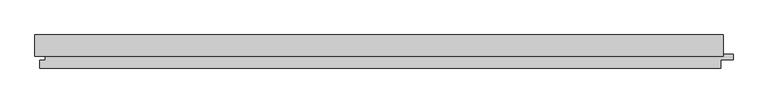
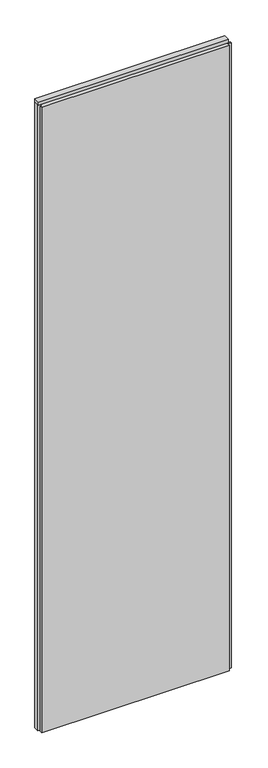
"""IFC4 building model written with IfcOpenShell, lengths in millimetres: plate geometry, Trimo_Qbiss Screen_Normal Panel-VERTICAL : HR - FB-F."""

from ifc_helpers import new_model, si_unit, frame, origin, place, context, project, spatial, polyline, outline, extrude, source, transform, mapped, element, save


def plate_f19d07dd(model_context):
    return source(origin(), model_context, "Body", "SweptSolid", [
        extrude(outline(polyline([(-513.0, 93.9), (-513.0, 126.0), (513.0, 126.0), (513.0, 93.9), (-513.0, 93.9)])), frame((0.0, 0.0, 3590.5), z_axis=(0.0, 0.0, 1.0), x_axis=(1.0, 0.0, 0.0)), (0.0, 0.0, 1.0), 19.0),
        extrude(outline(polyline([(509.0, 97.0), (527.5, 97.0), (527.5, 89.0), (509.0, 89.0), (509.0, 76.0), (-506.0, 76.0), (-506.0, 88.0), (-497.5, 88.0), (-497.5, 98.0), (-513.0, 98.0), (-513.0, 126.0), (509.0, 126.0), (509.0, 97.0)])), frame((0.0, 0.0, 12.5), z_axis=(0.0, 0.0, 1.0), x_axis=(1.0, 0.0, 0.0)), (0.0, 0.0, 1.0), 3575.0),
    ])


if __name__ == "__main__":
    model = new_model("IFC4")
    model_context = context("Model", 3, world=origin())
    ifc_project = project(units=[si_unit("LENGTHUNIT", "METRE", prefix="MILLI")], contexts=[model_context])
    site = spatial("IfcSite", under=ifc_project)
    building = spatial("IfcBuilding", under=site)
    placement = place(None, origin())
    plate_shape = plate_f19d07dd(model_context)
    element("IfcPlate", 1, ObjectType="Trimo_Qbiss Screen_Normal Panel-VERTICAL : HR - FB-F", at=placement, inside=building, context=model_context, shape_type="MappedRepresentation", body=[
        mapped(plate_shape, transform((0.0, 0.0, 0.0), x_axis=(1.0, 0.0, 0.0), y_axis=(0.0, 1.0, 0.0), z_axis=(0.0, 0.0, 1.0))),
    ])
    save(model, "model.ifc")
